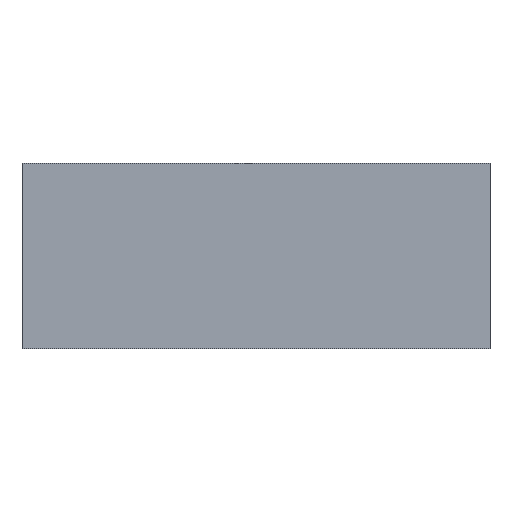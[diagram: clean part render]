
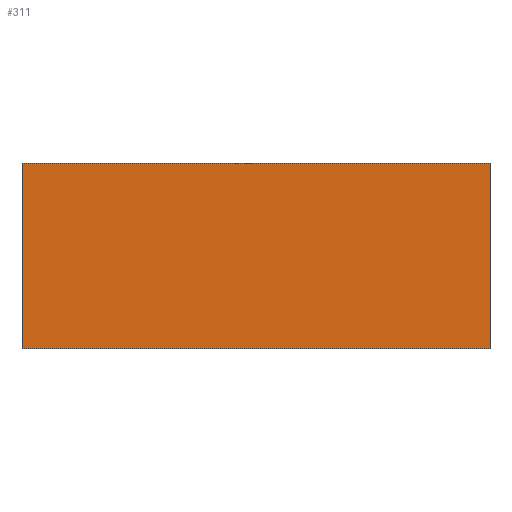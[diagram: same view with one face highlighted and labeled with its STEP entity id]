
A CAD part, front view. The second image highlights one B-rep face of the part: STEP entity #311.
In plain terms, the highlighted planar face has unit normal (0, -1, 0).
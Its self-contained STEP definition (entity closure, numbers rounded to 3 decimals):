
#39=FACE_OUTER_BOUND('',#55,.T.);
#55=EDGE_LOOP('',(#233,#234,#235,#236));
#81=LINE('',#483,#115);
#82=LINE('',#485,#116);
#83=LINE('',#487,#117);
#84=LINE('',#488,#118);
#115=VECTOR('',#401,10.);
#116=VECTOR('',#402,10.);
#117=VECTOR('',#403,10.);
#118=VECTOR('',#404,10.);
#151=VERTEX_POINT('',#481);
#152=VERTEX_POINT('',#482);
#153=VERTEX_POINT('',#484);
#154=VERTEX_POINT('',#486);
#185=EDGE_CURVE('',#151,#152,#81,.T.);
#186=EDGE_CURVE('',#152,#153,#82,.T.);
#187=EDGE_CURVE('',#154,#153,#83,.T.);
#188=EDGE_CURVE('',#151,#154,#84,.F.);
#233=ORIENTED_EDGE('',*,*,#185,.T.);
#234=ORIENTED_EDGE('',*,*,#186,.T.);
#235=ORIENTED_EDGE('',*,*,#187,.F.);
#236=ORIENTED_EDGE('',*,*,#188,.F.);
#295=PLANE('',#349);
#311=ADVANCED_FACE('',(#39),#295,.T.);
#349=AXIS2_PLACEMENT_3D('',#480,#399,#400);
#399=DIRECTION('center_axis',(0.,-1.,0.));
#400=DIRECTION('ref_axis',(0.,0.,-1.));
#401=DIRECTION('',(0.,0.,-1.));
#402=DIRECTION('',(1.,0.,0.));
#403=DIRECTION('',(0.,0.,-1.));
#404=DIRECTION('',(-1.,0.,0.));
#480=CARTESIAN_POINT('Origin',(0.,-76.5,30.));
#481=CARTESIAN_POINT('',(0.,-76.5,31.5));
#482=CARTESIAN_POINT('',(0.,-76.5,-40.));
#483=CARTESIAN_POINT('',(0.,-76.5,30.));
#484=CARTESIAN_POINT('',(180.,-76.5,-40.));
#485=CARTESIAN_POINT('',(0.,-76.5,-40.));
#486=CARTESIAN_POINT('',(180.,-76.5,31.5));
#487=CARTESIAN_POINT('',(180.,-76.5,30.));
#488=CARTESIAN_POINT('',(0.,-76.5,31.5));
